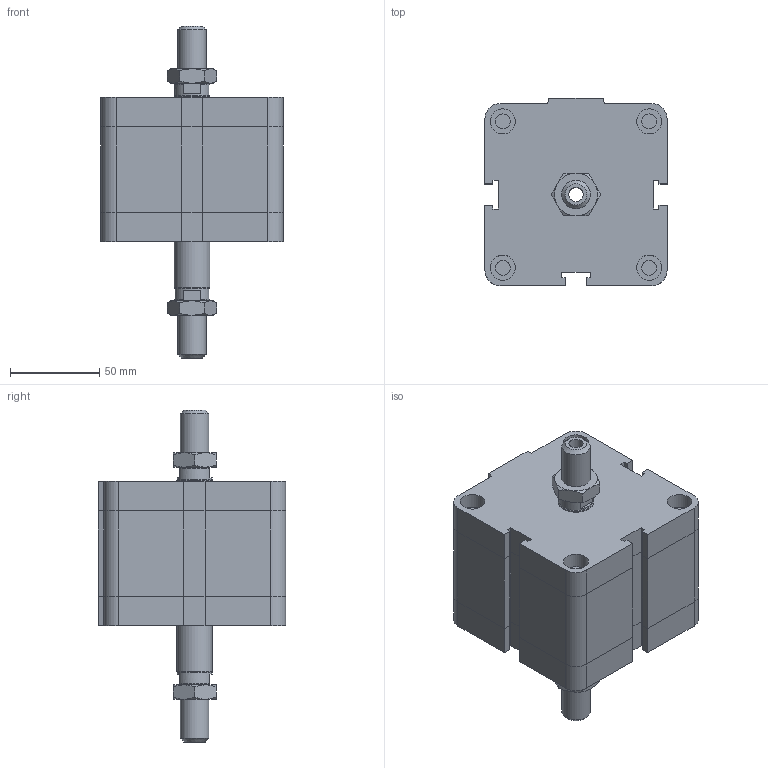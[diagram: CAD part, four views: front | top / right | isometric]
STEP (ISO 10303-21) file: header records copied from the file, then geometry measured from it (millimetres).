
FILE_DESCRIPTION((''),'2;1');
FILE_NAME('I:\Area Tecnica\Disegni\VARIE-3D\Componenti\EUROPE\15##_###_####_05_#\1581_80_0025_05_1.iam.stp','2009-04-20T15:02:54',(''),(''),'Autodesk Inventor 2009','Autodesk Inventor 2009','');
FILE_SCHEMA(('AUTOMOTIVE_DESIGN { 1 0 10303 214 1 1 1 1 }'));
Length unit declared in the file: millimetre
Products named in the file (4): 1581_80_0025_05_1; 1581_80_0025_03_1_C; 1561_80_0025_05_1_S; DBFM16
Assembly tree (4 placements, depth 2):
  1581_80_0025_05_1
    1581_80_0025_03_1_C
    1561_80_0025_05_1_S
    DBFM16  x2
Bounding box: 102 x 105 x 186 mm (x, y, z)
Volume: 823333.8 mm3; surface area: 88404.8 mm2
Topology: 4 solids, 4 shells, 223 faces, 486 edges, 291 vertices
Faces by surface type: plane 129, cone 37, bspline 32, cylinder 25
Full cylindrical faces by diameter (mm): 8.376 x4, 14 x4, 14.5 x1, 16 x1, 19.5 x2, 20 x1
Entity records: 5484 total; most frequent: CARTESIAN_POINT 1227, DIRECTION 808, ORIENTED_EDGE 776, EDGE_CURVE 388, AXIS2_PLACEMENT_3D 275, EDGE_LOOP 262, VECTOR 258, LINE 258
